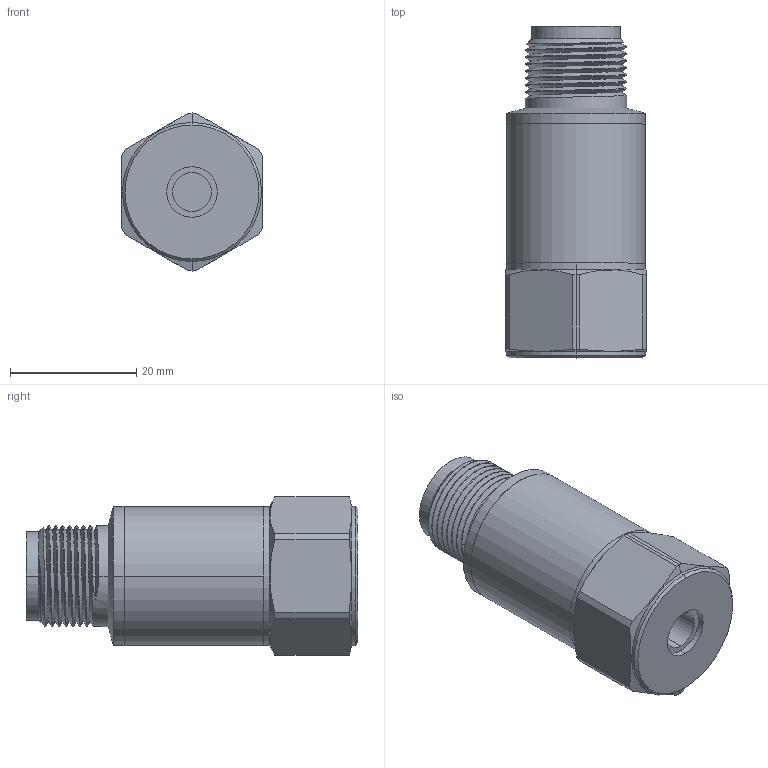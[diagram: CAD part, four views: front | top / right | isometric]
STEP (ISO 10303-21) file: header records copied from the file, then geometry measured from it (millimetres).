
FILE_DESCRIPTION (( 'STEP AP203' ), '1' );
FILE_NAME ('A26D100.STEP', '2019-03-26T05:56:20', ( 'Sky123.Org' ), ( 'Sky123.Org' ), 'SwSTEP 2.0', 'SolidWorks 2013', '' );
FILE_SCHEMA (( 'CONFIG_CONTROL_DESIGN' ));
Length unit declared in the file: millimetre
Products named in the file (4): 菁釱; A26D100; 俋褲; 脣釱
Assembly tree (3 placements, depth 2):
  A26D100
    菁釱
    俋褲
    脣釱
Bounding box: 22.2 x 52.5 x 25 mm (x, y, z)
Volume: 8137.1 mm3; surface area: 8158.4 mm2
Topology: 3 solids, 3 shells, 117 faces, 266 edges, 169 vertices
Faces by surface type: cylinder 63, plane 33, cone 15, torus 4, bspline 2
Entity records: 4819 total; most frequent: CARTESIAN_POINT 1805, DIRECTION 574, ORIENTED_EDGE 532, EDGE_CURVE 266, AXIS2_PLACEMENT_3D 238, VERTEX_POINT 169, EDGE_LOOP 133, CIRCLE 117
